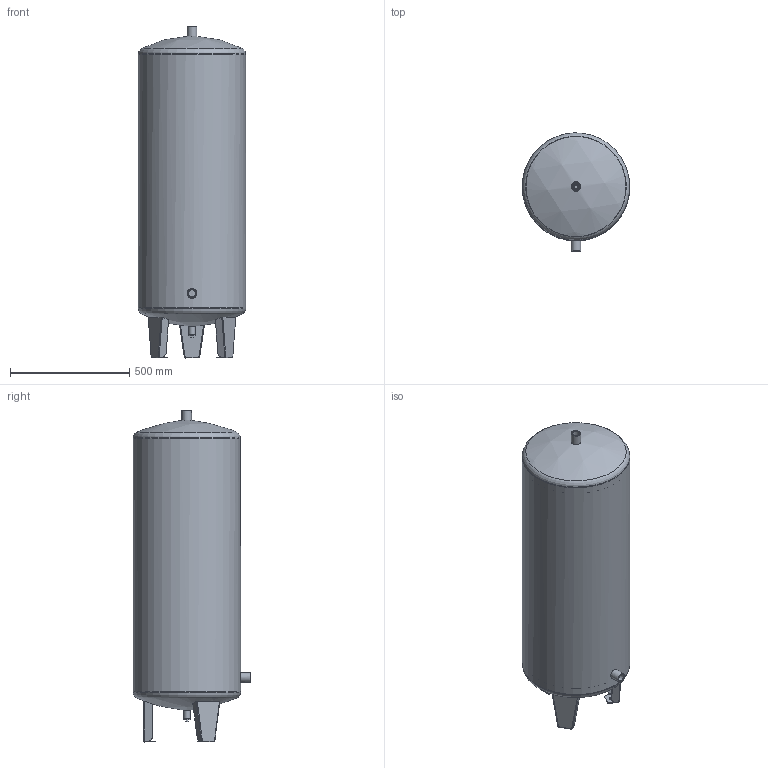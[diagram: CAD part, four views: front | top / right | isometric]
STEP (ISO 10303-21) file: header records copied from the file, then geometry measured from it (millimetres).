
FILE_DESCRIPTION((''),'2;1');
FILE_NAME('C:\Vault\Inventor\Expansion\elko-mat\EV\EV 150\EV150-10-110.stp','2012-06-11T14:08:04',('Walder'),(''),'Autodesk Inventor 11','Autodesk Inventor 11','');
FILE_SCHEMA(('AUTOMOTIVE_DESIGN { 1 0 10303 214 1 1 1 1 }'));
Length unit declared in the file: millimetre
Products named in the file (1): EV150-10-110
Bounding box: 449.9 x 493.24 x 1389.81 mm (x, y, z)
Volume: 8171006.8 mm3; surface area: 3908590.5 mm2
Topology: 5 solids, 5 shells, 448 faces, 1081 edges, 656 vertices
Faces by surface type: plane 209, cylinder 116, bspline 113, torus 5, cone 3, sphere 2
Full cylindrical faces by diameter (mm): 14 x1, 20 x1, 20.96 x1, 27 x1, 33.25 x1, 40 x2, 440 x2, 442 x1, 450 x1
Entity records: 19271 total; most frequent: CARTESIAN_POINT 9611, ORIENTED_EDGE 2094, DIRECTION 1713, EDGE_CURVE 1047, VERTEX_POINT 650, VECTOR 623, LINE 623, AXIS2_PLACEMENT_3D 545
